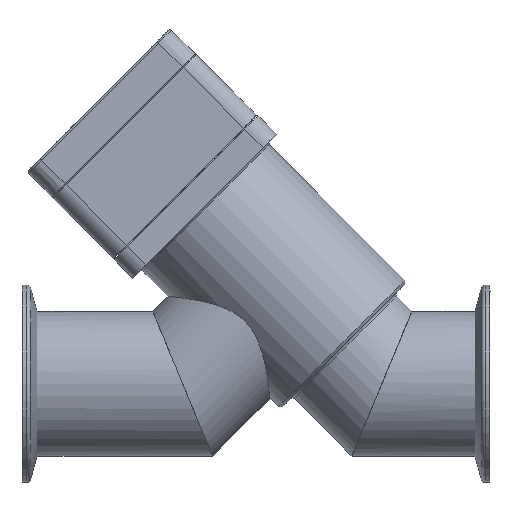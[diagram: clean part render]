
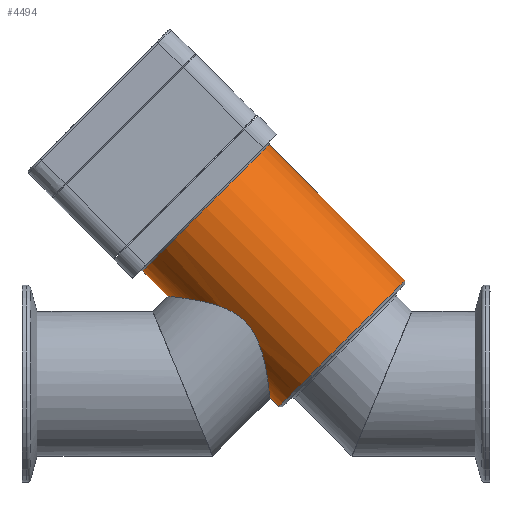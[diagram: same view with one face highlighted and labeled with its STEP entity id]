
A CAD part, top view. The second image highlights one B-rep face of the part: STEP entity #4494.
In plain terms, the highlighted cylindrical face has radius 33.95 mm (diameter 67.9 mm), a full revolution.
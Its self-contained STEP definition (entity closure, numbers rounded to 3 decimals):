
#1401=B_SPLINE_CURVE_WITH_KNOTS('',3,(#16357,#16358,#16359,#16360,#16361,
#16362,#16363,#16364,#16365,#16366,#16367,#16368,#16369,#16370,#16371,#16372,
#16373,#16374,#16375,#16376,#16377,#16378,#16379,#16380,#16381,#16382,#16383,
#16384,#16385,#16386,#16387,#16388,#16389,#16390),.UNSPECIFIED.,.T.,.F.,
(2,2,2,2,2,2,2,2,2,2,2,2,2,2,2,2,2,2,2),(-0.062,0.,0.063,
0.125,0.188,0.25,0.313,0.375,0.438,0.5,0.563,0.625,0.688,0.75,0.813,
0.875,0.938,1.,1.063),.UNSPECIFIED.);
#4055=CYLINDRICAL_SURFACE('',#10779,33.95);
#4494=ADVANCED_FACE('',(#4868,#4869,#4870),#4055,.T.);
#4868=FACE_BOUND('',#5516,.T.);
#4869=FACE_BOUND('',#5517,.T.);
#4870=FACE_BOUND('',#5518,.T.);
#5516=EDGE_LOOP('',(#7502));
#5517=EDGE_LOOP('',(#7503));
#5518=EDGE_LOOP('',(#7504));
#7502=ORIENTED_EDGE('',*,*,#9618,.T.);
#7503=ORIENTED_EDGE('',*,*,#9619,.T.);
#7504=ORIENTED_EDGE('',*,*,#9620,.F.);
#8558=VERTEX_POINT('',#16354);
#8559=VERTEX_POINT('',#16356);
#8560=VERTEX_POINT('',#16391);
#9618=EDGE_CURVE('',#8558,#8558,#10060,.T.);
#9619=EDGE_CURVE('',#8559,#8559,#10061,.T.);
#9620=EDGE_CURVE('',#8560,#8560,#1401,.T.);
#10060=CIRCLE('',#10777,33.95);
#10061=CIRCLE('',#10778,33.95);
#10777=AXIS2_PLACEMENT_3D('',#16353,#12789,#12790);
#10778=AXIS2_PLACEMENT_3D('',#16355,#12791,#12792);
#10779=AXIS2_PLACEMENT_3D('',#16392,#12793,#12794);
#12789=DIRECTION('',(1.,0.,0.));
#12790=DIRECTION('',(0.,0.,1.));
#12791=DIRECTION('',(-1.,0.,0.));
#12792=DIRECTION('',(0.,0.,1.));
#12793=DIRECTION('',(-1.,0.,0.));
#12794=DIRECTION('',(0.,0.,1.));
#16353=CARTESIAN_POINT('',(38.,0.,0.));
#16354=CARTESIAN_POINT('',(38.,0.,33.95));
#16355=CARTESIAN_POINT('',(111.025,0.,0.));
#16356=CARTESIAN_POINT('',(111.025,0.,33.95));
#16357=CARTESIAN_POINT('',(73.462,22.97,-25.));
#16358=CARTESIAN_POINT('',(66.538,22.97,-25.));
#16359=CARTESIAN_POINT('',(63.217,23.795,-24.276));
#16360=CARTESIAN_POINT('',(57.299,26.105,-21.772));
#16361=CARTESIAN_POINT('',(54.674,27.556,-19.999));
#16362=CARTESIAN_POINT('',(50.205,30.27,-15.589));
#16363=CARTESIAN_POINT('',(48.369,31.538,-12.958));
#16364=CARTESIAN_POINT('',(45.756,33.385,-6.929));
#16365=CARTESIAN_POINT('',(45.011,33.942,-3.504));
#16366=CARTESIAN_POINT('',(44.989,33.958,3.342));
#16367=CARTESIAN_POINT('',(45.703,33.423,6.749));
#16368=CARTESIAN_POINT('',(48.285,31.596,12.819));
#16369=CARTESIAN_POINT('',(50.132,30.318,15.499));
#16370=CARTESIAN_POINT('',(54.611,27.591,19.954));
#16371=CARTESIAN_POINT('',(57.215,26.147,21.724));
#16372=CARTESIAN_POINT('',(63.139,23.817,24.255));
#16373=CARTESIAN_POINT('',(66.496,22.98,24.99));
#16374=CARTESIAN_POINT('',(73.367,22.959,25.009));
#16375=CARTESIAN_POINT('',(76.766,23.79,24.28));
#16376=CARTESIAN_POINT('',(82.679,26.095,21.784));
#16377=CARTESIAN_POINT('',(85.316,27.551,20.006));
#16378=CARTESIAN_POINT('',(89.783,30.262,15.604));
#16379=CARTESIAN_POINT('',(91.639,31.543,12.949));
#16380=CARTESIAN_POINT('',(94.26,33.396,6.883));
#16381=CARTESIAN_POINT('',(94.989,33.942,3.521));
#16382=CARTESIAN_POINT('',(95.01,33.958,-3.368));
#16383=CARTESIAN_POINT('',(94.291,33.419,-6.767));
#16384=CARTESIAN_POINT('',(91.707,31.591,-12.832));
#16385=CARTESIAN_POINT('',(89.86,30.313,-15.51));
#16386=CARTESIAN_POINT('',(85.373,27.582,-19.967));
#16387=CARTESIAN_POINT('',(82.784,26.144,-21.728));
#16388=CARTESIAN_POINT('',(76.814,23.801,-24.271));
#16389=CARTESIAN_POINT('',(73.462,22.97,-25.));
#16390=CARTESIAN_POINT('',(66.538,22.97,-25.));
#16391=CARTESIAN_POINT('',(70.,22.97,-25.));
#16392=CARTESIAN_POINT('',(0.,0.,0.));
